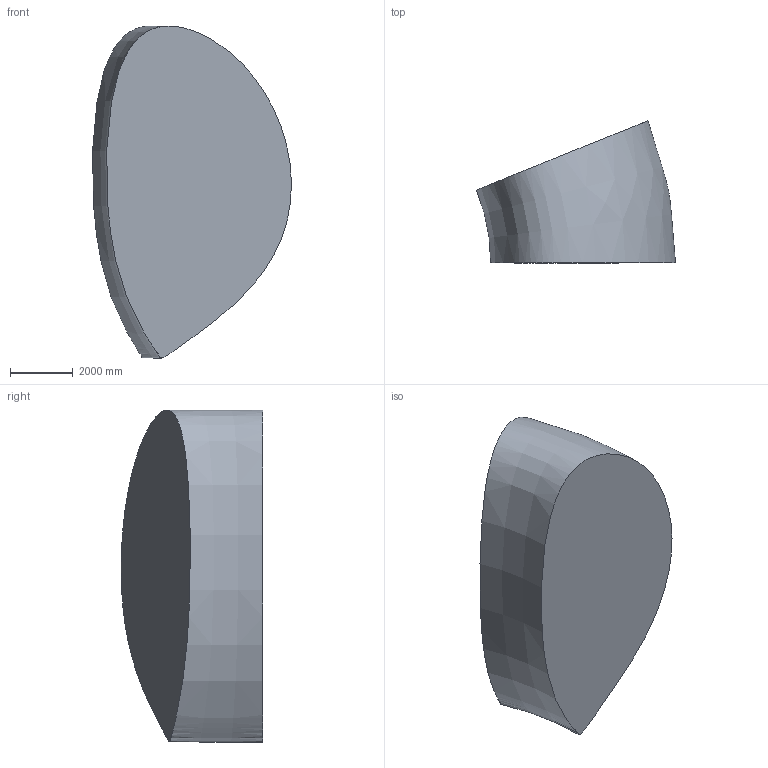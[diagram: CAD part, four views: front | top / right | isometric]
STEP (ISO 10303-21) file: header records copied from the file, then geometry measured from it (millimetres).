
FILE_DESCRIPTION(('FreeCAD Model'),'2;1');
FILE_NAME('Open CASCADE Shape Model','2026-10-11T08:36:59',('Bluemira'), ('Bluemira'),'Open CASCADE STEP processor 7.8','FreeCAD','Unknown');
FILE_SCHEMA(('AP242_MANAGED_MODEL_BASED_3D_ENGINEERING_MIM_LF. {1 0 10303 442 1 1 4 }'));
Length unit declared in the file: metre
Products named in the file (1): LCFS
Bounding box: 6320.91 x 4509.96 x 10553.01 mm (x, y, z)
Volume: 156283155368.7 mm3; surface area: 178983636.4 mm2
Topology: 1 solids, 1 shells, 3 faces, 3 edges, 2 vertices
Faces by surface type: plane 2, revolution 1
Entity records: 1610 total; most frequent: CARTESIAN_POINT 1526, DIRECTION 13, ORIENTED_EDGE 6, PCURVE 6, DEFINITIONAL_REPRESENTATION 6, B_SPLINE_CURVE_WITH_KNOTS 5, AXIS2_PLACEMENT_3D 4, LINE 4
